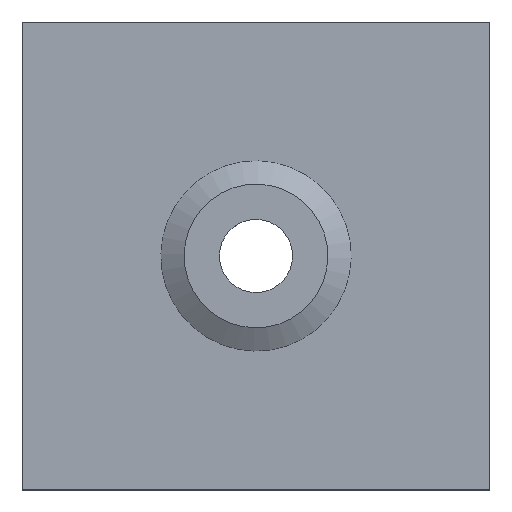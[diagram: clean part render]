
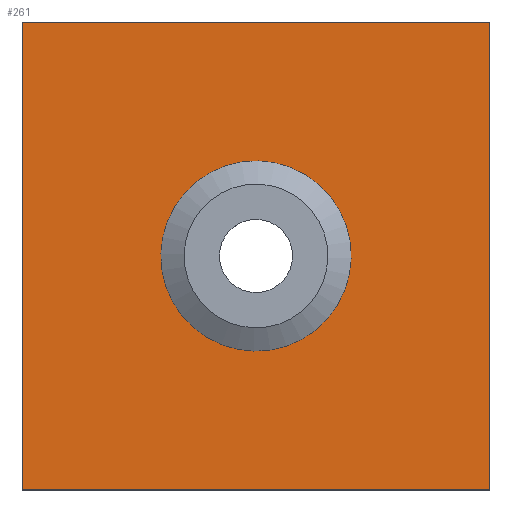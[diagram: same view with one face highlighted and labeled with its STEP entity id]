
A CAD part, top view. The second image highlights one B-rep face of the part: STEP entity #261.
In plain terms, the highlighted planar face has unit normal (0, 0, 1).
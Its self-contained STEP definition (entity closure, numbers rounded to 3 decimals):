
#20=FACE_BOUND('',#69,.T.);
#30=PLANE('',#312);
#47=FACE_OUTER_BOUND('',#68,.T.);
#68=EDGE_LOOP('',(#218,#219,#220,#221));
#69=EDGE_LOOP('',(#222));
#78=LINE('',#428,#96);
#81=LINE('',#434,#99);
#84=LINE('',#440,#102);
#86=LINE('',#443,#104);
#96=VECTOR('',#361,1.);
#99=VECTOR('',#366,1.);
#102=VECTOR('',#371,1.);
#104=VECTOR('',#375,1.);
#116=CIRCLE('',#310,70.);
#127=VERTEX_POINT('',#422);
#129=VERTEX_POINT('',#426);
#131=VERTEX_POINT('',#432);
#133=VERTEX_POINT('',#438);
#135=VERTEX_POINT('',#447);
#153=EDGE_CURVE('',#127,#129,#78,.T.);
#156=EDGE_CURVE('',#129,#131,#81,.F.);
#159=EDGE_CURVE('',#131,#133,#84,.T.);
#161=EDGE_CURVE('',#133,#127,#86,.F.);
#164=EDGE_CURVE('',#135,#135,#116,.T.);
#218=ORIENTED_EDGE('',*,*,#153,.T.);
#219=ORIENTED_EDGE('',*,*,#156,.T.);
#220=ORIENTED_EDGE('',*,*,#159,.T.);
#221=ORIENTED_EDGE('',*,*,#161,.T.);
#222=ORIENTED_EDGE('',*,*,#164,.F.);
#261=ADVANCED_FACE('',(#47,#20),#30,.T.);
#310=AXIS2_PLACEMENT_3D('',#449,#381,#382);
#312=AXIS2_PLACEMENT_3D('',#451,#385,#386);
#361=DIRECTION('',(0.,-1.,0.));
#366=DIRECTION('',(-1.,0.,0.));
#371=DIRECTION('',(0.,1.,0.));
#375=DIRECTION('',(1.,0.,0.));
#381=DIRECTION('center_axis',(0.,0.,1.));
#382=DIRECTION('ref_axis',(-1.,0.,0.));
#385=DIRECTION('center_axis',(0.,0.,1.));
#386=DIRECTION('ref_axis',(1.,0.,0.));
#422=CARTESIAN_POINT('',(-240.,240.,1.2));
#426=CARTESIAN_POINT('',(-240.,-240.,1.2));
#428=CARTESIAN_POINT('',(-240.,0.,1.2));
#432=CARTESIAN_POINT('',(240.,-240.,1.2));
#434=CARTESIAN_POINT('',(0.,-240.,1.2));
#438=CARTESIAN_POINT('',(240.,240.,1.2));
#440=CARTESIAN_POINT('',(240.,0.,1.2));
#443=CARTESIAN_POINT('',(0.,240.,1.2));
#447=CARTESIAN_POINT('',(-70.,0.,1.2));
#449=CARTESIAN_POINT('Origin',(0.,0.,1.2));
#451=CARTESIAN_POINT('Origin',(0.,0.,1.2));
